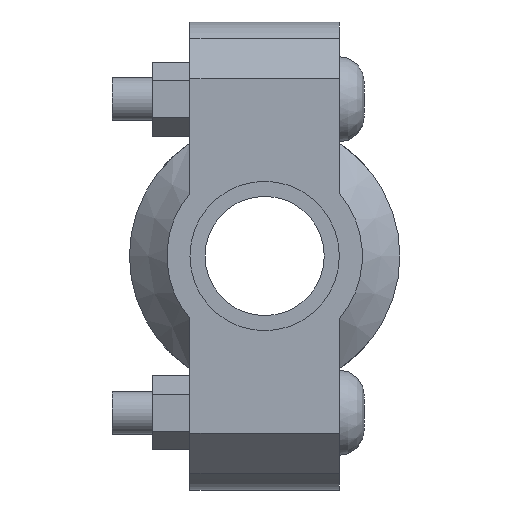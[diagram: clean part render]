
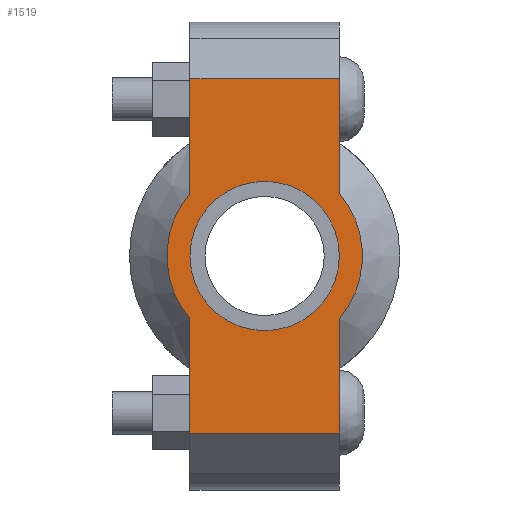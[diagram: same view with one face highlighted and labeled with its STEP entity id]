
A CAD part, left-side view. The second image highlights one B-rep face of the part: STEP entity #1519.
In plain terms, the highlighted planar face has unit normal (-1, 0, 0) as drawn and (0, 0, 1) by its records, which use the part's own axes.
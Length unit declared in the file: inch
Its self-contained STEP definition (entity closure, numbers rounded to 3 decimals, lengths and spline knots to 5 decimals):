
#130=LINE('',#2609,#225);
#145=LINE('',#2668,#240);
#153=LINE('',#2698,#248);
#155=LINE('',#2701,#250);
#156=LINE('',#2706,#251);
#157=LINE('',#2707,#252);
#225=VECTOR('',#2111,0.3937);
#240=VECTOR('',#2146,0.3937);
#248=VECTOR('',#2166,0.3937);
#250=VECTOR('',#2170,0.3937);
#251=VECTOR('',#2175,0.3937);
#252=VECTOR('',#2176,0.3937);
#312=FACE_BOUND('',#471,.T.);
#372=FACE_OUTER_BOUND('',#470,.T.);
#470=EDGE_LOOP('',(#1214,#1215,#1216,#1217,#1218,#1219,#1220,#1221));
#471=EDGE_LOOP('',(#1222));
#576=CIRCLE('',#1782,0.86);
#577=CIRCLE('',#1783,0.86);
#578=CIRCLE('',#1784,0.6575);
#685=VERTEX_POINT('',#2606);
#686=VERTEX_POINT('',#2608);
#707=VERTEX_POINT('',#2663);
#708=VERTEX_POINT('',#2667);
#717=VERTEX_POINT('',#2693);
#718=VERTEX_POINT('',#2697);
#719=VERTEX_POINT('',#2703);
#720=VERTEX_POINT('',#2705);
#721=VERTEX_POINT('',#2709);
#855=EDGE_CURVE('',#686,#685,#130,.T.);
#880=EDGE_CURVE('',#708,#707,#145,.T.);
#893=EDGE_CURVE('',#718,#717,#153,.T.);
#895=EDGE_CURVE('',#718,#685,#155,.T.);
#896=EDGE_CURVE('',#717,#719,#576,.T.);
#897=EDGE_CURVE('',#719,#720,#156,.T.);
#898=EDGE_CURVE('',#708,#720,#157,.T.);
#899=EDGE_CURVE('',#707,#686,#577,.T.);
#900=EDGE_CURVE('',#721,#721,#578,.T.);
#1214=ORIENTED_EDGE('',*,*,#895,.F.);
#1215=ORIENTED_EDGE('',*,*,#893,.T.);
#1216=ORIENTED_EDGE('',*,*,#896,.T.);
#1217=ORIENTED_EDGE('',*,*,#897,.T.);
#1218=ORIENTED_EDGE('',*,*,#898,.F.);
#1219=ORIENTED_EDGE('',*,*,#880,.T.);
#1220=ORIENTED_EDGE('',*,*,#899,.T.);
#1221=ORIENTED_EDGE('',*,*,#855,.T.);
#1222=ORIENTED_EDGE('',*,*,#900,.T.);
#1371=PLANE('',#1781);
#1519=ADVANCED_FACE('',(#372,#312),#1371,.T.);
#1781=AXIS2_PLACEMENT_3D('',#2702,#2171,#2172);
#1782=AXIS2_PLACEMENT_3D('',#2704,#2173,#2174);
#1783=AXIS2_PLACEMENT_3D('',#2708,#2177,#2178);
#1784=AXIS2_PLACEMENT_3D('',#2710,#2179,#2180);
#2111=DIRECTION('',(1.,0.,0.));
#2146=DIRECTION('',(1.,0.,0.));
#2166=DIRECTION('',(-1.,0.,0.));
#2170=DIRECTION('',(0.,-1.,0.));
#2171=DIRECTION('center_axis',(0.,0.,1.));
#2172=DIRECTION('ref_axis',(-1.,0.,0.));
#2173=DIRECTION('center_axis',(0.,0.,1.));
#2174=DIRECTION('ref_axis',(1.,0.,0.));
#2175=DIRECTION('',(-1.,0.,0.));
#2176=DIRECTION('',(0.,1.,0.));
#2177=DIRECTION('center_axis',(0.,0.,1.));
#2178=DIRECTION('ref_axis',(1.,0.,0.));
#2179=DIRECTION('center_axis',(0.,0.,-1.));
#2180=DIRECTION('ref_axis',(1.,0.,0.));
#2606=CARTESIAN_POINT('',(1.56,-0.6575,0.875));
#2608=CARTESIAN_POINT('',(0.55434,-0.6575,0.875));
#2609=CARTESIAN_POINT('',(-2.06,-0.6575,0.875));
#2663=CARTESIAN_POINT('',(-0.55434,-0.6575,0.875));
#2667=CARTESIAN_POINT('',(-1.56,-0.6575,0.875));
#2668=CARTESIAN_POINT('',(-2.06,-0.6575,0.875));
#2693=CARTESIAN_POINT('',(0.55434,0.6575,0.875));
#2697=CARTESIAN_POINT('',(1.56,0.6575,0.875));
#2698=CARTESIAN_POINT('',(2.06,0.6575,0.875));
#2701=CARTESIAN_POINT('',(1.56,-0.32875,0.875));
#2702=CARTESIAN_POINT('Origin',(0.,0.,
0.875));
#2703=CARTESIAN_POINT('',(-0.55434,0.6575,0.875));
#2704=CARTESIAN_POINT('Origin',(0.,0.,0.875));
#2705=CARTESIAN_POINT('',(-1.56,0.6575,0.875));
#2706=CARTESIAN_POINT('',(2.06,0.6575,0.875));
#2707=CARTESIAN_POINT('',(-1.56,0.32875,0.875));
#2708=CARTESIAN_POINT('Origin',(0.,0.,0.875));
#2709=CARTESIAN_POINT('',(-0.6575,0.,0.875));
#2710=CARTESIAN_POINT('Origin',(0.,0.,0.875));
